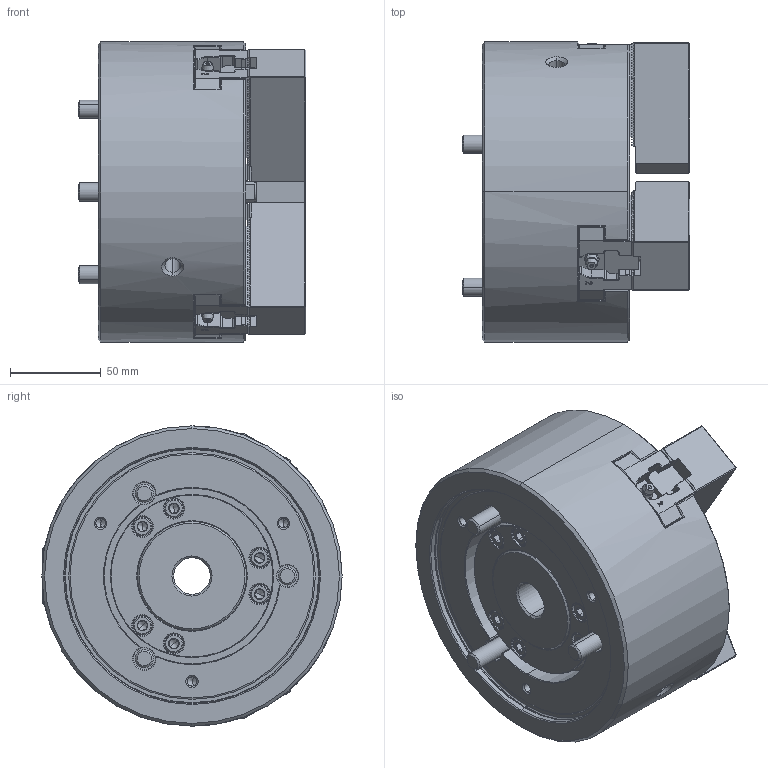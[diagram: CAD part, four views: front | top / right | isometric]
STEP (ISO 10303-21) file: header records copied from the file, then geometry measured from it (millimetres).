
FILE_DESCRIPTION (( 'STEP AP203' ), '1' );
FILE_NAME ('B-206M_HOL.STEP', '2025-09-05T09:48:32', ( '' ), ( '' ), 'SwSTEP 2.0', 'SolidWorks 2022', '' );
FILE_SCHEMA (( 'CONFIG_CONTROL_DESIGN' ));
Length unit declared in the file: millimetre
Products named in the file (9): Copy of DEV-B-206M-Bアナツキ M10x25^DEV-B-206M-クミタテ; Copy of DEV-B-206M-ドローナット^DEV-B-206M-クミタテ_ねじ切りなし; Copy of DEV-B-206M-ソフトジョー^DEV-B-206M-クミタテ_デフォルト; Copy of DEV-B-206M-Bアナツキボタン M5x10^DEV-B-206M-クミタテ; B-206M_HOL; Copy of DEV-B-206M-Tナット^DEV-B-206M-クミタテ; Copy of DEV-B-206M-Bアナツキ M10x80^DEV-B-206M-クミタテ; Part10^DEV-B-206M-クミタテ; Copy of DEV-B-206M-カバー^DEV-B-206M-クミタテ
Assembly tree (21 placements, depth 2):
  B-206M_HOL
    Copy of DEV-B-206M-Bアナツキ M10x80^DEV-B-206M-クミタテ  x3
    Copy of DEV-B-206M-Bアナツキ M10x25^DEV-B-206M-クミタテ  x6
    Copy of DEV-B-206M-Bアナツキボタン M5x10^DEV-B-206M-クミタテ  x3
    Copy of DEV-B-206M-ドローナット^DEV-B-206M-クミタテ_ねじ切りなし
    Copy of DEV-B-206M-カバー^DEV-B-206M-クミタテ
    Copy of DEV-B-206M-ソフトジョー^DEV-B-206M-クミタテ_デフォルト  x3
    Copy of DEV-B-206M-Tナット^DEV-B-206M-クミタテ  x3
    Part10^DEV-B-206M-クミタテ
Bounding box: 125.2 x 165 x 165 mm (x, y, z)
Volume: 1666148.1 mm3; surface area: 232650.3 mm2
Topology: 21 solids, 27 shells, 3559 faces, 9843 edges, 6385 vertices
Faces by surface type: plane 2134, cylinder 842, cone 368, bspline 142, torus 66, sphere 7
Entity records: 83965 total; most frequent: CARTESIAN_POINT 22525, ORIENTED_EDGE 13324, DIRECTION 11406, EDGE_CURVE 6662, LINE 4672, VECTOR 4672, VERTEX_POINT 4332, AXIS2_PLACEMENT_3D 3367
